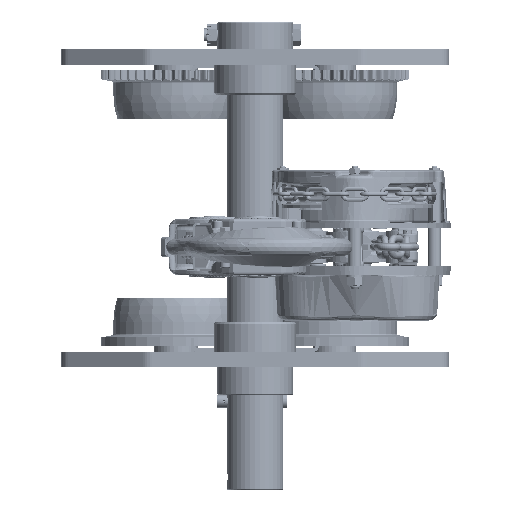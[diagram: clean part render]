
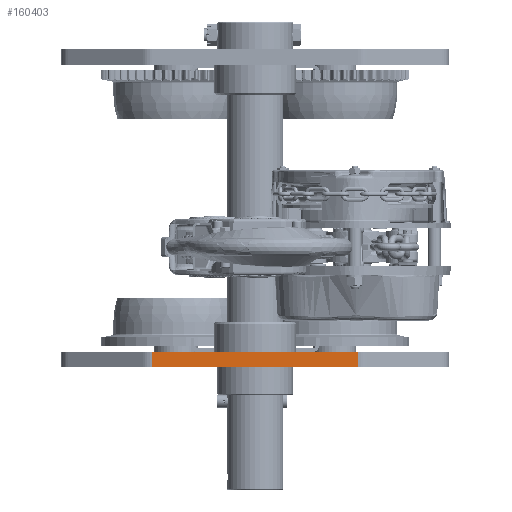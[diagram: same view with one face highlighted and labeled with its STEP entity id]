
A CAD part, front view. The second image highlights one B-rep face of the part: STEP entity #160403.
In plain terms, the highlighted planar face has unit normal (0, -1, 0).
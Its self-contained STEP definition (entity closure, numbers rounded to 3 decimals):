
#15074 = CARTESIAN_POINT ( 'NONE',  ( 127.709, -72., 19. ) ) ;
#17842 = CARTESIAN_POINT ( 'NONE',  ( -127.709, -72., 19. ) ) ;
#22086 = DIRECTION ( 'NONE',  ( 0., 0., -1. ) ) ;
#28833 = EDGE_CURVE ( 'NONE', #102349, #255867, #217079, .T. ) ;
#30463 = AXIS2_PLACEMENT_3D ( 'NONE', #15074, #231366, #112061 ) ;
#40207 = CARTESIAN_POINT ( 'NONE',  ( 127.709, -72., 0. ) ) ;
#46358 = CARTESIAN_POINT ( 'NONE',  ( 127.709, -72., 19. ) ) ;
#58665 = VECTOR ( 'NONE', #170920, 1000. ) ;
#72873 = LINE ( 'NONE', #239946, #132090 ) ;
#83138 = VERTEX_POINT ( 'NONE', #296293 ) ;
#85741 = VECTOR ( 'NONE', #95655, 1000. ) ;
#95655 = DIRECTION ( 'NONE',  ( 1., 0., 0. ) ) ;
#100114 = CARTESIAN_POINT ( 'NONE',  ( -127.709, -72., 0. ) ) ;
#102349 = VERTEX_POINT ( 'NONE', #17842 ) ;
#112061 = DIRECTION ( 'NONE',  ( -1., 0., 0. ) ) ;
#124133 = LINE ( 'NONE', #46358, #85741 ) ;
#132090 = VECTOR ( 'NONE', #22086, 1000. ) ;
#137201 = DIRECTION ( 'NONE',  ( 1., 0., 0. ) ) ;
#160403 = ADVANCED_FACE ( 'NONE', ( #255211 ), #277536, .F. ) ;
#169371 = CARTESIAN_POINT ( 'NONE',  ( -127.709, -72., 19. ) ) ;
#170920 = DIRECTION ( 'NONE',  ( 0., 0., -1. ) ) ;
#184928 = LINE ( 'NONE', #40207, #279543 ) ;
#217079 = LINE ( 'NONE', #169371, #58665 ) ;
#220473 = VERTEX_POINT ( 'NONE', #287723 ) ;
#228792 = ORIENTED_EDGE ( 'NONE', *, *, #28833, .T. ) ;
#231366 = DIRECTION ( 'NONE',  ( 0., 1., 0. ) ) ;
#234233 = ORIENTED_EDGE ( 'NONE', *, *, #293446, .T. ) ;
#239946 = CARTESIAN_POINT ( 'NONE',  ( 127.709, -72., 19. ) ) ;
#255211 = FACE_OUTER_BOUND ( 'NONE', #298736, .T. ) ;
#255867 = VERTEX_POINT ( 'NONE', #100114 ) ;
#262821 = ORIENTED_EDGE ( 'NONE', *, *, #262939, .F. ) ;
#262939 = EDGE_CURVE ( 'NONE', #102349, #83138, #124133, .T. ) ;
#274861 = EDGE_CURVE ( 'NONE', #83138, #220473, #72873, .T. ) ;
#277536 = PLANE ( 'NONE',  #30463 ) ;
#279543 = VECTOR ( 'NONE', #137201, 1000. ) ;
#287723 = CARTESIAN_POINT ( 'NONE',  ( 127.709, -72., 0. ) ) ;
#293446 = EDGE_CURVE ( 'NONE', #255867, #220473, #184928, .T. ) ;
#296293 = CARTESIAN_POINT ( 'NONE',  ( 127.709, -72., 19. ) ) ;
#298736 = EDGE_LOOP ( 'NONE', ( #234233, #307756, #262821, #228792 ) ) ;
#307756 = ORIENTED_EDGE ( 'NONE', *, *, #274861, .F. ) ;
